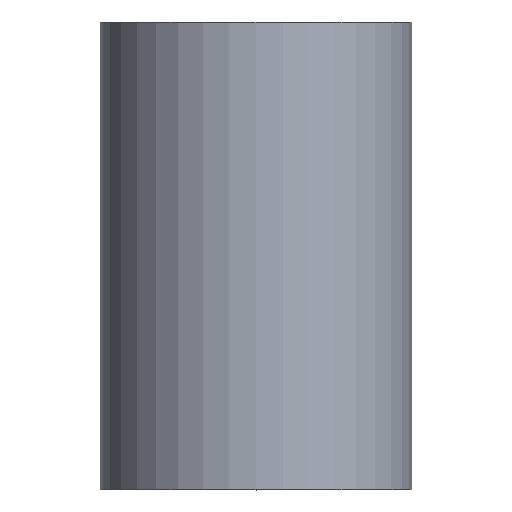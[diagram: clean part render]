
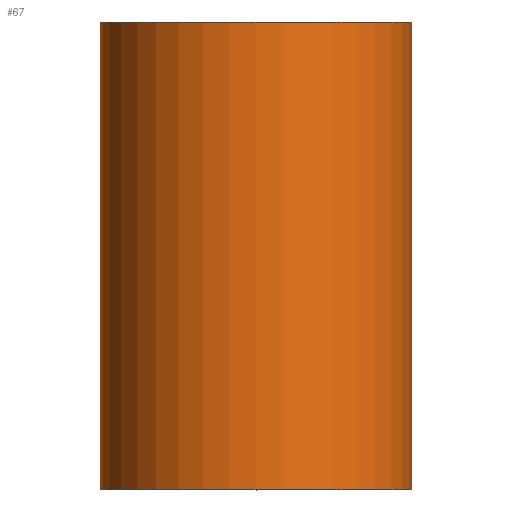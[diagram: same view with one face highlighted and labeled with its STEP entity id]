
A CAD part, top view. The second image highlights one B-rep face of the part: STEP entity #67.
In plain terms, the highlighted cylindrical face has radius 2 mm (diameter 4 mm), a partial arc.
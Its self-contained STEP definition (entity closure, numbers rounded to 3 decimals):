
#11 = EDGE_CURVE ( 'NONE', #100, #240, #114, .T. ) ;
#19 = AXIS2_PLACEMENT_3D ( 'NONE', #180, #49, #45 ) ;
#20 = CARTESIAN_POINT ( 'NONE',  ( -2., 0., 0. ) ) ;
#21 = EDGE_LOOP ( 'NONE', ( #216, #72, #290, #144 ) ) ;
#24 = DIRECTION ( 'NONE',  ( 0., 1., 0. ) ) ;
#45 = DIRECTION ( 'NONE',  ( -1., 0., 0. ) ) ;
#46 = CARTESIAN_POINT ( 'NONE',  ( 0., 6., 0. ) ) ;
#49 = DIRECTION ( 'NONE',  ( 0., 1., 0. ) ) ;
#67 = ADVANCED_FACE ( 'NONE', ( #281 ), #75, .T. ) ;
#70 = CARTESIAN_POINT ( 'NONE',  ( 2., 6., 0. ) ) ;
#72 = ORIENTED_EDGE ( 'NONE', *, *, #258, .T. ) ;
#74 = CARTESIAN_POINT ( 'NONE',  ( 0., 0., 0. ) ) ;
#75 = CYLINDRICAL_SURFACE ( 'NONE', #19, 2. ) ;
#80 = VERTEX_POINT ( 'NONE', #70 ) ;
#89 = DIRECTION ( 'NONE',  ( 0., 1., 0. ) ) ;
#92 = LINE ( 'NONE', #159, #282 ) ;
#94 = DIRECTION ( 'NONE',  ( -1., 0., 0. ) ) ;
#95 = CARTESIAN_POINT ( 'NONE',  ( 2., 0., 0. ) ) ;
#100 = VERTEX_POINT ( 'NONE', #225 ) ;
#114 = LINE ( 'NONE', #20, #235 ) ;
#123 = CIRCLE ( 'NONE', #142, 2. ) ;
#138 = CARTESIAN_POINT ( 'NONE',  ( -2., 6., 0. ) ) ;
#142 = AXIS2_PLACEMENT_3D ( 'NONE', #46, #207, #94 ) ;
#144 = ORIENTED_EDGE ( 'NONE', *, *, #11, .F. ) ;
#156 = AXIS2_PLACEMENT_3D ( 'NONE', #74, #254, #295 ) ;
#159 = CARTESIAN_POINT ( 'NONE',  ( 2., 0., 0. ) ) ;
#171 = EDGE_CURVE ( 'NONE', #240, #80, #123, .T. ) ;
#180 = CARTESIAN_POINT ( 'NONE',  ( 0., 0., 0. ) ) ;
#207 = DIRECTION ( 'NONE',  ( 0., 1., 0. ) ) ;
#212 = EDGE_CURVE ( 'NONE', #100, #255, #280, .T. ) ;
#216 = ORIENTED_EDGE ( 'NONE', *, *, #212, .T. ) ;
#225 = CARTESIAN_POINT ( 'NONE',  ( -2., 0., 0. ) ) ;
#235 = VECTOR ( 'NONE', #89, 1000. ) ;
#240 = VERTEX_POINT ( 'NONE', #138 ) ;
#254 = DIRECTION ( 'NONE',  ( 0., 1., 0. ) ) ;
#255 = VERTEX_POINT ( 'NONE', #95 ) ;
#258 = EDGE_CURVE ( 'NONE', #255, #80, #92, .T. ) ;
#280 = CIRCLE ( 'NONE', #156, 2. ) ;
#281 = FACE_OUTER_BOUND ( 'NONE', #21, .T. ) ;
#282 = VECTOR ( 'NONE', #24, 1000. ) ;
#290 = ORIENTED_EDGE ( 'NONE', *, *, #171, .F. ) ;
#295 = DIRECTION ( 'NONE',  ( -1., 0., 0. ) ) ;
